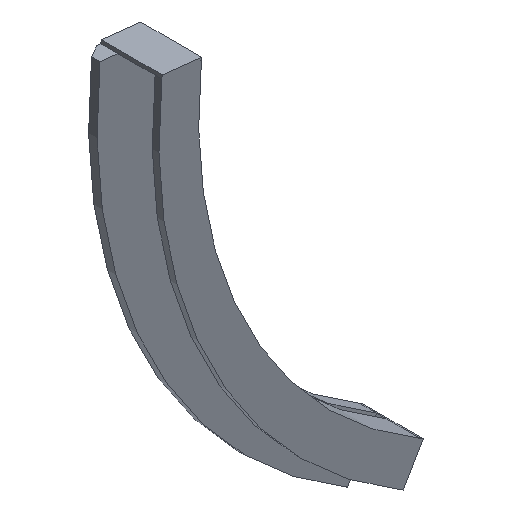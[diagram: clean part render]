
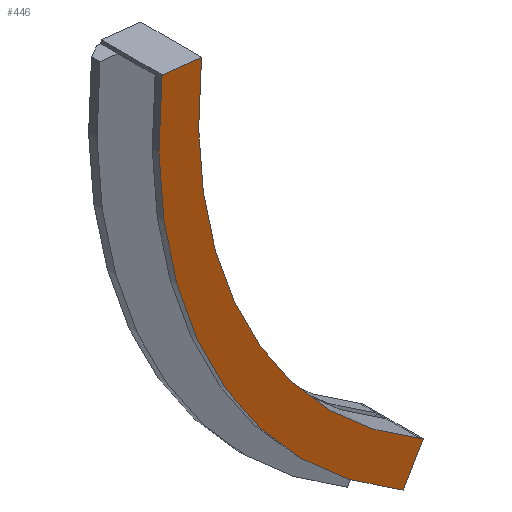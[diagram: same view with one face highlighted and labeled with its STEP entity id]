
A CAD part, isometric view. The second image highlights one B-rep face of the part: STEP entity #446.
In plain terms, the highlighted planar face has unit normal (0, -1, 0).
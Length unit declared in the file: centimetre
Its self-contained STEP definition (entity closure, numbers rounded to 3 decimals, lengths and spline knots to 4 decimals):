
#114=CIRCLE('',#682,22.8778);
#115=CIRCLE('',#684,21.016);
#125=VERTEX_POINT('',#566);
#128=VERTEX_POINT('',#572);
#130=VERTEX_POINT('',#578);
#131=VERTEX_POINT('',#580);
#133=VERTEX_POINT('',#589);
#138=VERTEX_POINT('',#598);
#140=VERTEX_POINT('',#603);
#141=VERTEX_POINT('',#605);
#161=VECTOR('',#477,1.);
#164=VECTOR('',#481,1.);
#167=VECTOR('',#485,1.);
#174=VECTOR('',#493,1.);
#176=VECTOR('',#496,1.);
#181=VECTOR('',#502,1.);
#201=LINE('',#573,#161);
#204=LINE('',#579,#164);
#207=LINE('',#585,#167);
#214=LINE('',#599,#174);
#216=LINE('',#604,#176);
#221=LINE('',#614,#181);
#241=EDGE_CURVE('',#128,#125,#201,.T.);
#244=EDGE_CURVE('',#131,#130,#204,.T.);
#247=EDGE_CURVE('',#128,#131,#207,.T.);
#254=EDGE_CURVE('',#138,#133,#214,.T.);
#256=EDGE_CURVE('',#141,#140,#216,.T.);
#261=EDGE_CURVE('',#140,#133,#221,.T.);
#282=EDGE_CURVE('',#138,#125,#114,.T.);
#283=EDGE_CURVE('',#141,#130,#115,.T.);
#376=ORIENTED_EDGE('',*,*,#282,.T.);
#377=ORIENTED_EDGE('',*,*,#241,.F.);
#378=ORIENTED_EDGE('',*,*,#247,.T.);
#379=ORIENTED_EDGE('',*,*,#244,.T.);
#380=ORIENTED_EDGE('',*,*,#283,.F.);
#381=ORIENTED_EDGE('',*,*,#256,.T.);
#382=ORIENTED_EDGE('',*,*,#261,.T.);
#383=ORIENTED_EDGE('',*,*,#254,.F.);
#406=EDGE_LOOP('',(#376,#377,#378,#379,#380,#381,#382,#383));
#426=FACE_BOUND('',#406,.T.);
#446=ADVANCED_FACE('',(#426),#461,.T.);
#461=PLANE('',#683);
#477=DIRECTION('',(-0.914,0.,0.407));
#481=DIRECTION('',(-0.914,0.,0.407));
#485=DIRECTION('',(0.407,0.,0.914));
#493=DIRECTION('',(0.,0.,1.));
#496=DIRECTION('',(0.,0.,1.));
#502=DIRECTION('',(-1.,0.,0.));
#545=DIRECTION('',(0.,-1.,0.));
#546=DIRECTION('',(-22.878,0.,0.));
#547=DIRECTION('',(0.,-1.,0.));
#548=DIRECTION('',(0.,-1.,0.));
#549=DIRECTION('',(-21.016,0.,0.));
#566=CARTESIAN_POINT('',(13.5725,-0.3175,-20.8999));
#572=CARTESIAN_POINT('',(13.7176,-0.3175,-20.9645));
#573=CARTESIAN_POINT('',(13.7176,-0.3175,-20.9645));
#578=CARTESIAN_POINT('',(14.3298,-0.3175,-19.199));
#579=CARTESIAN_POINT('',(14.4748,-0.3175,-19.2636));
#580=CARTESIAN_POINT('',(14.4748,-0.3175,-19.2636));
#585=CARTESIAN_POINT('',(13.7176,-0.3175,-20.9645));
#589=CARTESIAN_POINT('',(0.,-0.3175,0.1588));
#598=CARTESIAN_POINT('',(0.,-0.3175,0.));
#599=CARTESIAN_POINT('',(0.,-0.3175,0.));
#603=CARTESIAN_POINT('',(1.8618,-0.3175,0.1587));
#604=CARTESIAN_POINT('',(1.8618,-0.3175,0.));
#605=CARTESIAN_POINT('',(1.8618,-0.3175,0.));
#614=CARTESIAN_POINT('',(0.,-0.3175,0.1588));
#651=CARTESIAN_POINT('',(22.8778,-0.3175,0.));
#652=CARTESIAN_POINT('',(0.9309,-0.3175,0.));
#653=CARTESIAN_POINT('',(22.8778,-0.3175,0.));
#682=AXIS2_PLACEMENT_3D('',#651,#545,#546);
#683=AXIS2_PLACEMENT_3D('',#652,#547,$);
#684=AXIS2_PLACEMENT_3D('',#653,#548,#549);
